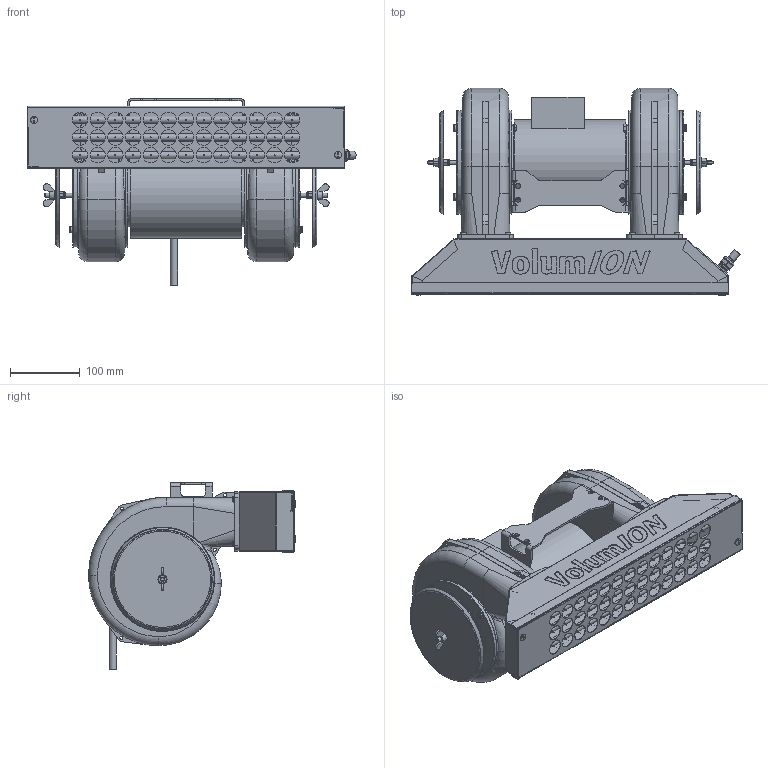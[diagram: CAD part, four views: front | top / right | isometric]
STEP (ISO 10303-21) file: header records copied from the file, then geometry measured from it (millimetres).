
FILE_DESCRIPTION(('ONLY FOR INFORMATION','HiCAD-Model','HiCAD-STEP-TRANSLATION'),'2;1');
FILE_NAME('Q:/##','2010-00-00',('D&E Department'),('Simco (Nederland) B.V.','Aalsvoort 74','NL-7241 MB LOCHEM','www.simco-ion.nl'),' HiCAD 2010, Step 1502.3 ','HiCAD 2010','confidential');
FILE_SCHEMA(('AUTOMOTIVE_DESIGN { 1 2 10303 214 0 1 1 1 }'));
Products named in the file (31): SIMCO_VOLUMION; SIMCO0VOLUMION; SIMCO0VOLUMION0; GEWINDE; GEWINDE0; GEWINDE1; GEWINDE2; GEWINDE3; GEWINDE4; GEWINDE5; GEWINDE6; GEWINDE7; GEWINDE8; CABLE; GLAND; REGULATOR; REGULATOR0; GEWINDE9; GEWINDE10; GEWINDE11; GEWINDE12; GEWINDE13; GEWINDE14; REGULATOR1; REGULATOR2; GEWINDE15; GEWINDE16; GEWINDE17; GEWINDE18; GEWINDE19; GEWINDE20
Assembly tree (30 placements, depth 4):
  SIMCO_VOLUMION
    SIMCO0VOLUMION
    SIMCO0VOLUMION0
      GEWINDE
      GEWINDE0
      GEWINDE1
      GEWINDE2
      GEWINDE3
      GEWINDE4
      GEWINDE5
      GEWINDE6
      GEWINDE7
      GEWINDE8
      CABLE
      GLAND
      REGULATOR
      REGULATOR0
        GEWINDE9
        GEWINDE10
        GEWINDE11
        GEWINDE12
        GEWINDE13
        GEWINDE14
      REGULATOR1
      REGULATOR2
        GEWINDE15
        GEWINDE16
        GEWINDE17
        GEWINDE18
        GEWINDE19
        GEWINDE20
Bounding box: 471.84 x 297.86 x 267.67 mm (x, y, z)
Volume: 7283478.7 mm3; surface area: 939517 mm2
Topology: 43 solids, 70 shells, 4877 faces, 13514 edges, 8868 vertices
Faces by surface type: plane 3874, cylinder 554, cone 338, sphere 43, torus 38, bspline 30
Full cylindrical faces by diameter (mm): 1.45 x39, 4.372 x2, 4.5 x20, 4.629 x2, 4.773 x6, 4.8 x16, 4.917 x4, 5 x7, 5.2 x2, 5.5 x26, 6 x7, 6.4 x2, 6.466 x16, 6.5 x12, 6.631 x4, 6.8 x4, 6.88 x3, 7 x4, 7.5 x3, 8 x18, 8.348 x6, 8.8 x8, 8.88 x1, 9 x8, 9.5 x4, 10.113 x2, 10.4 x3, 10.5 x9, 10.6 x3, 11 x3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
Entity records: 281443 total; most frequent: CARTESIAN_POINT 68620, ORIENTED_EDGE 25272, DIRECTION 23425, COLOUR_RGB 15922, PRESENTATION_STYLE_ASSIGNMENT 15922, OVER_RIDING_STYLED_ITEM 15895, EDGE_CURVE 12636, CURVE_STYLE 12324
